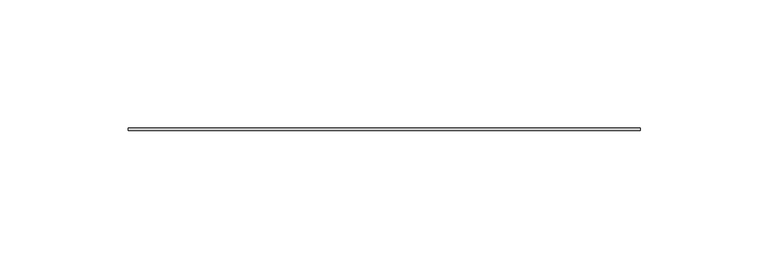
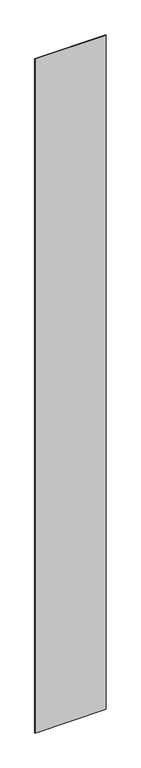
"""IFC4 building model written with IfcOpenShell, lengths in millimetres: proxy geometry, AQUAPANEL showcase solid : AQUAPANEL showcase solid."""

from ifc_helpers import new_model, si_unit, origin, origin_with_axes, place, context, project, spatial, polyline, outline, extrude, source, transform, mapped, element, save


def generic_models_0b0e4c18(model_context):
    return source(origin(), model_context, "Body", "SweptSolid", [
        extrude(outline(polyline([(18186.0136184, 15434.3863455), (18386.0136184, 15434.3863455), (18386.0136184, 15433.3863455), (18186.0136184, 15433.3863455), (18186.0136184, 15434.3863455)])), origin_with_axes(), (0.0, 0.0, 1.0), 2000.0),
    ])


if __name__ == "__main__":
    model = new_model("IFC4")
    model_context = context("Model", 3, world=origin())
    ifc_project = project(units=[si_unit("LENGTHUNIT", "METRE", prefix="MILLI")], contexts=[model_context])
    site = spatial("IfcSite", under=ifc_project)
    building = spatial("IfcBuilding", under=site)
    placement = place(None, origin())
    generic_models_shape = generic_models_0b0e4c18(model_context)
    element("IfcBuildingElementProxy", 1, Name="AQUAPANEL showcase solid : AQUAPANEL showcase solid", ObjectType="AQUAPANEL showcase solid : AQUAPANEL showcase solid", at=placement, inside=building, context=model_context, shape_type="MappedRepresentation", body=[
        mapped(generic_models_shape, transform((0.0, 0.0, 0.0), x_axis=(1.0, 0.0, 0.0), y_axis=(0.0, 1.0, 0.0), z_axis=(0.0, 0.0, 1.0))),
    ])
    save(model, "model.ifc")
